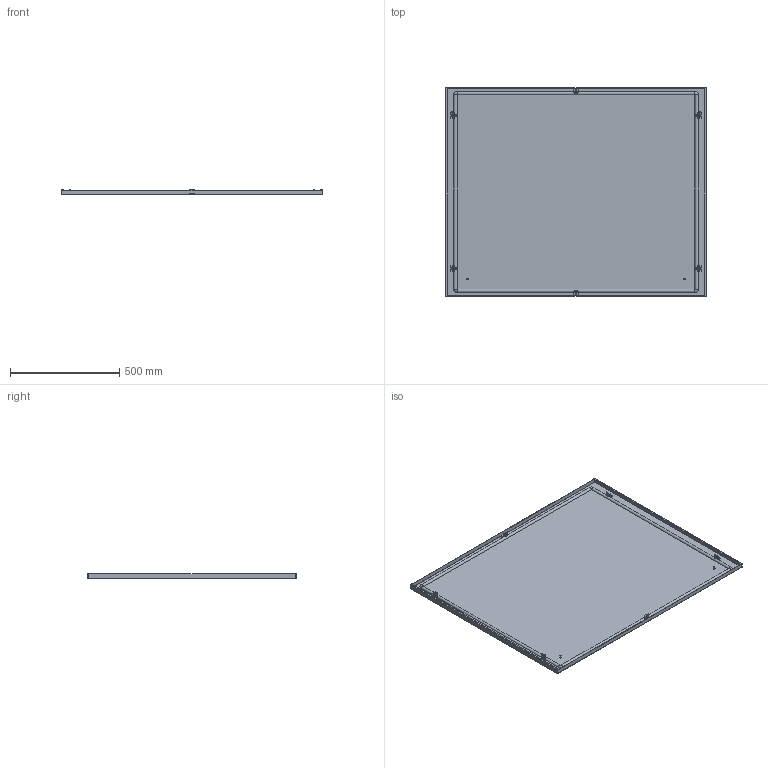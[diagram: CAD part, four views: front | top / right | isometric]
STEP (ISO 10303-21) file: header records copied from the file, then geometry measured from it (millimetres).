
FILE_DESCRIPTION(('Open CASCADE Model'),'2;1');
FILE_NAME('Open CASCADE Shape Model','2025-02-07T16:30:43',('Author'),( 'Open CASCADE'),'Open CASCADE STEP processor 7.8','Open CASCADE 7.8' ,'Unknown');
FILE_SCHEMA(('AUTOMOTIVE_DESIGN { 1 0 10303 214 1 1 1 1 }'));
Length unit declared in the file: millimetre
Products named in the file (10): Compound1; Solid1; Solid2; Solid3; Solid4; Compound2; Compound3; Solid5; Solid6; Solid7
Assembly tree (30 placements, depth 4):
  Compound1
    Solid1  x6
    Solid2  x4
    Solid3  x6
    Solid4  x6
    Compound2
      Compound3
        Solid5
        Solid6  x4
      Solid7
Bounding box: 1194 x 955 x 23.55 mm (x, y, z)
Volume: 2229188.6 mm3; surface area: 2662965 mm2
Topology: 28 solids, 28 shells, 1101 faces, 2660 edges, 1618 vertices
Faces by surface type: plane 657, cone 232, cylinder 184, torus 21, bspline 6, revolution 1
Full cylindrical faces by diameter (mm): 5 x12, 6 x100, 7.5 x4, 8 x12, 10 x6, 11.57 x6
Entity records: 7603 total; most frequent: CARTESIAN_POINT 1441, DIRECTION 1228, ORIENTED_EDGE 1228, EDGE_CURVE 614, AXIS2_PLACEMENT_3D 409, LINE 409, VECTOR 409, VERTEX_POINT 381
